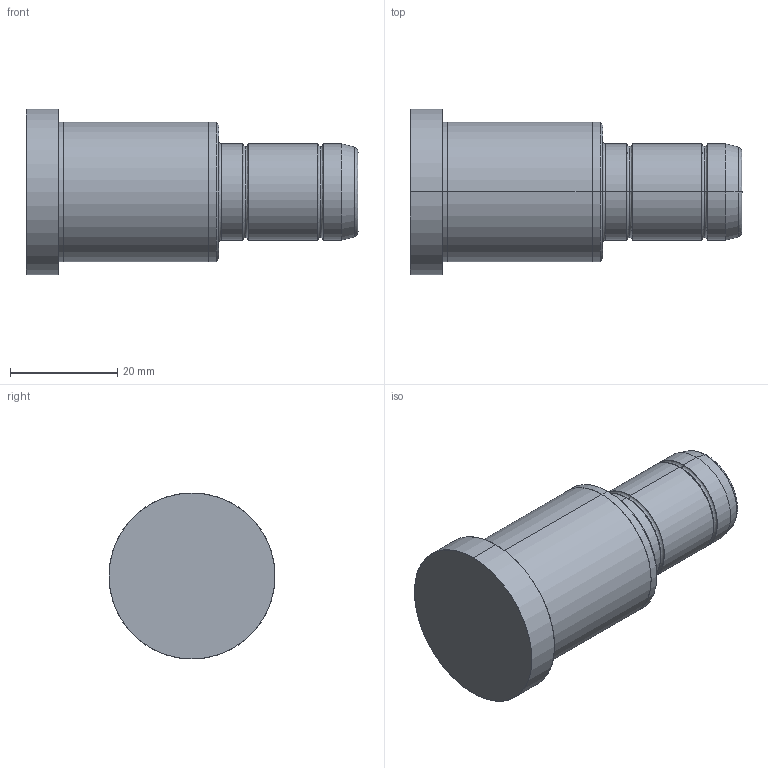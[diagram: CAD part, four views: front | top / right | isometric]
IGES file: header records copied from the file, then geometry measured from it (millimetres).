
Start section: SolidWorks IGES file using analytic representation for surfaces
Global section: file name: C:\Documents and Settings\kalite-mail\Desktop\IGS\D02\18\D02 - 18x36x26.IGS; native system: SolidWorks 2008; preprocessor: SolidWorks 2008; author: kalite-mail; date: 080616.150338; units: millimetre
Bounding box: 62 x 31 x 31 mm (x, y, z)
Surface area: 5982.7 mm2 (no closed solid volume)
Topology: 0 solids, 0 shells, 36 faces, 504 edges, 504 vertices
Faces by surface type: bspline 18, revolution 18
